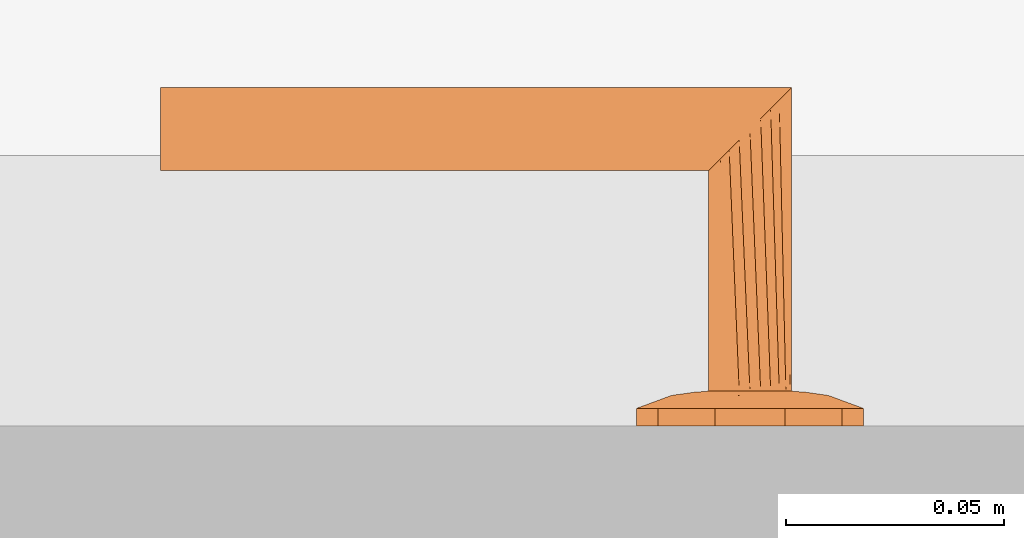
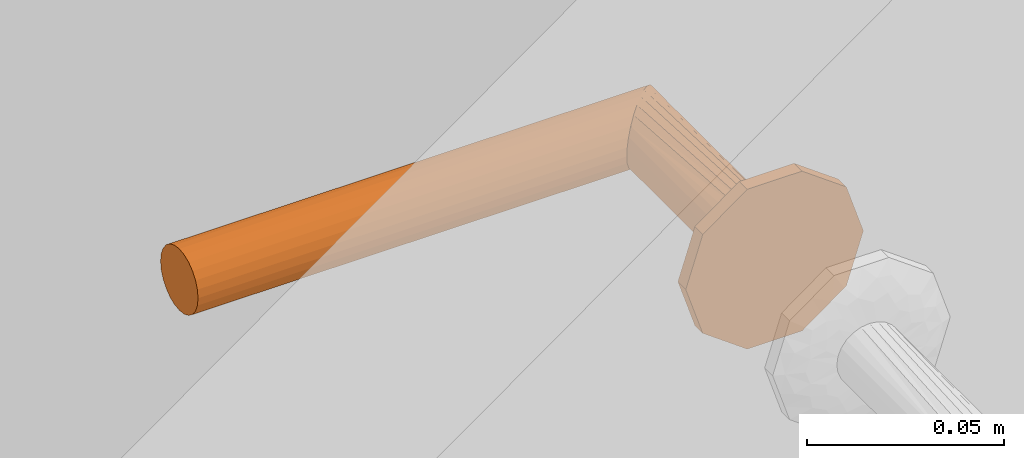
# One storey, part 121 of 125: 1 proxy.
"""IFC2X3 building model written with IfcOpenShell, lengths in millimetres."""

from ifc_helpers import new_model, entity, si_unit, converted_unit, direction, frame, origin, place, context, subcontext, project, spatial, faceted_brep, source, transform, mapped, material, type_object, type_shapes, element, save


model = new_model("IFC2X3")

# Units and contexts
model_context = context("Model", 3, precision=0.01, world=origin(), true_north=direction((6.123233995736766e-17, 1.0)))
plan_context = context("Plan", 3, precision=0.01, world=origin(), true_north=direction((6.123233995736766e-17, 1.0)))
body_context = subcontext(model_context, "Body", "Model", "MODEL_VIEW")
ifc_project = project(units=[si_unit("LENGTHUNIT", "METRE", prefix="MILLI"), converted_unit("PLANEANGLEUNIT", "DEGREE", entity("IfcPlaneAngleMeasure", 0.017453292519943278), si_unit("PLANEANGLEUNIT", "RADIAN"), dimensions=[0, 0, 0, 0, 0, 0, 0]), si_unit("AREAUNIT", "SQUARE_METRE")], contexts=[model_context, plan_context])

# Site, building, storey
site_placement = place(None, origin())
site = spatial("IfcSite", under=ifc_project, at=site_placement, Name="Default", CompositionType="ELEMENT")
building_placement = place(site_placement, origin())
building = spatial("IfcBuilding", under=site, at=building_placement, CompositionType="ELEMENT")
storey_placement = place(building_placement, frame((0.0, 0.0, 3125.0)))
storey = spatial("IfcBuildingStorey", under=building, at=storey_placement, Name="2K", CompositionType="ELEMENT", Elevation=3125.0)

# Proxy
ifc_material = material(Name="<Unnamed>")
building_element_proxy_type = type_object("IfcBuildingElementProxyType", Name="Door-handle_Lever_ABLOY_INOXI_3-19ss-002_RT:Default", PredefinedType="NOTDEFINED", material=ifc_material)
shared_shape = source(origin(), body_context, "Body", "Brep", [
    faceted_brep([(0.0, 0.0, 0.0), (8.034441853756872, 24.72746942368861, 0.0), (14.534441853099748, 20.00494299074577, 0.0), (21.034441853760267, 15.282416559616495, 0.0), (23.51722092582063, 7.641208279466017, 0.0), (26.0, 0.0, 0.0), (23.517220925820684, -7.641208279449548, 0.0), (0.0, 24.72746942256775, 0.0), (-8.034441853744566, 24.727469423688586, 0.0), (-14.534441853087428, 20.00494299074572, 0.0), (-21.03444185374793, 15.282416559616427, 0.0), (-23.517220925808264, 7.641208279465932, 0.0), (-26.0, 0.0, 0.0), (21.034441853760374, -15.282416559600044, 0.0), (14.534441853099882, -20.004942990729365, 0.0), (8.034441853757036, -24.72746942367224, 0.0), (0.0, -24.72746942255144, 0.0), (-23.517220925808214, -7.641208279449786, 0.0), (-21.034441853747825, -15.282416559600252, 0.0), (-14.53444185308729, -20.004942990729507, 0.0), (-8.0344418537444, -24.72746942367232, 0.0), (0.0, 0.0, 8.0), (9.500000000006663, 0.0, 8.0), (8.312500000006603, 2.056810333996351, 8.0), (7.125000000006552, 4.113620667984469, 8.0), (5.937500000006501, 6.170431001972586, 8.0), (4.7500000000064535, 8.227241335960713, 8.0), (2.375000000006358, 8.2272413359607, 8.0), (0.0, 8.227241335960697, 8.0), (-2.3749999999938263, 8.227241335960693, 8.0), (-4.749999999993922, 8.227241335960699, 8.0), (-5.937499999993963, 6.1704310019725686, 8.0), (-7.124999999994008, 4.1136206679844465, 8.0), (-8.312499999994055, 2.0568103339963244, 8.0), (-9.499999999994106, 0.0, 8.0), (-8.31249999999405, -2.0568103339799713, 8.0), (8.312500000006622, -2.0568103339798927, 8.0), (7.125000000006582, -4.113620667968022, 8.0), (5.937500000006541, -6.170431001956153, 8.0), (4.750000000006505, -8.227241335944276, 8.0), (-7.124999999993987, -4.113620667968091, 8.0), (-5.9374999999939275, -6.17043100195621, 8.0), (-4.74999999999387, -8.227241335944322, 8.0), (-2.374999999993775, -8.227241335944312, 8.0), (0.0, -8.227241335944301, 8.0), (2.3750000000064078, -8.227241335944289, 8.0), (-20.6430713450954, 6.292822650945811, 5.929480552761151), (-16.663919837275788, 7.932665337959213, 6.877259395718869), (-22.48876527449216, 10.806469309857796, 4.030771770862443), (-16.764060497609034, 3.8202578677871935, 7.1747985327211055), (-12.504579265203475, 5.179566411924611, 7.774932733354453), (-11.979136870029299, 13.678312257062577, 6.945778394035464), (-11.963426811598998, 8.62529041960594, 7.618343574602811), (-9.07172672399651, 10.31160661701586, 7.7520782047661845), (8.03444185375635, 24.727469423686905, 4.030771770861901), (0.0, 24.72746942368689, 4.030771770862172), (5.758554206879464, 20.96753300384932, 5.871476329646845), (20.643071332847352, 6.292822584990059, 5.929480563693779), (22.488765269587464, 10.806469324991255, 4.03077177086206), (16.66391982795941, 7.9326653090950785, 6.877259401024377), (9.49943163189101, 18.6436835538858, 6.154325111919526), (14.534441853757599, 20.004942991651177, 4.030771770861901), (-14.534441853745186, 20.00494299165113, 4.030771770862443), (-21.034441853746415, 15.282416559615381, 4.030771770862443), (-15.783149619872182, 11.991003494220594, 6.50080018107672), (-23.943088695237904, 6.330522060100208, 4.030771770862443), (-23.012042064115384, 0.0, 5.135401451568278), (12.50457924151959, 5.179566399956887, 7.774932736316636), (11.963426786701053, 8.625290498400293, 7.618343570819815), (16.76406041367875, 3.820257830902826, 7.17479855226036), (15.783149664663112, 11.991003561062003, 6.50080015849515), (23.01204200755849, 0.0, 5.135401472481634), (17.9853516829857, 0.0, 6.993737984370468), (8.661516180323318, 10.478936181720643, 7.768126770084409), (-3.3573143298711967, 21.197247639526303, 5.971427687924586), (-8.03444185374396, 24.727469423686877, 4.030771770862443), (-7.711266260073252, 12.76034452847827, 7.594456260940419), (-5.97325794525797, 16.43013906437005, 7.110979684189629), (-9.94191586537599, 17.061976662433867, 6.522757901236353), (11.979136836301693, 13.678312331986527, 6.945778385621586), (5.953298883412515, 16.50608604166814, 7.096344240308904), (7.511307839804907, 13.358932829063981, 7.529187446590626), (-1.5654593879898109, 15.307443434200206, 7.519134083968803), (-7.784980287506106, 20.476295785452, 5.812837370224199), (2.8135289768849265, 17.763922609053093, 6.993737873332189), (-17.985351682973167, 0.0, 6.993737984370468), (-26.0, 0.0, 4.030771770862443), (-23.51722092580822, 7.641208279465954, 4.030771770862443), (26.0, 0.0, 4.030771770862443), (24.308823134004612, 5.204907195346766, 4.030771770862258), (23.943088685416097, 6.330522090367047, 4.030771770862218), (21.03444185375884, 15.282416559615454, 4.030771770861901), (22.617646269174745, 10.40981439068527, 4.030771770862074), (20.6430713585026, -6.292822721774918, 5.929480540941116), (16.663919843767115, -7.932665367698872, 6.877259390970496), (22.48876527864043, -10.8064692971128, 4.030771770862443), (16.764060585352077, -3.8202579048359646, 7.174798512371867), (12.504579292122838, -5.17956641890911, 7.774932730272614), (11.979136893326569, -13.678312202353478, 6.9457784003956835), (11.963426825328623, -8.62529034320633, 7.618343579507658), (9.071726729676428, -10.311606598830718, 7.752078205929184), (-8.03444185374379, -24.727469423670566, 4.030771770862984), (0.0, -24.727469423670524, 4.030771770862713), (-5.758554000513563, -20.96753314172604, 5.8714763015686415), (-20.643071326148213, -6.292822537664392, 5.929480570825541), (-22.488765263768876, -10.80646934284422, 4.030771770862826), (-16.66391981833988, -7.932665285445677, 6.877259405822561), (-9.499431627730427, -18.643683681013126, 6.154325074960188), (-14.534441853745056, -20.004942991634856, 4.030771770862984), (14.53444185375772, -20.00494299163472, 4.030771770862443), (21.034441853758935, -15.282416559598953, 4.030771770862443), (15.783149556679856, -11.991003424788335, 6.5008002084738), (23.943088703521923, -6.330522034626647, 4.030771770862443), (-12.504579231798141, -5.17956638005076, 7.77493273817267), (-11.963426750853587, -8.625290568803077, 7.618343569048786), (-16.764060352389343, -3.8202577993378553, 7.174798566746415), (-15.783149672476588, -11.991003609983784, 6.500800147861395), (-8.661516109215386, -10.478936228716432, 7.768126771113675), (3.3573144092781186, -21.197247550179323, 5.971427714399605), (8.034441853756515, -24.727469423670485, 4.030771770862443), (7.711266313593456, -12.760344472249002, 7.5944562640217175), (5.9732581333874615, -16.430139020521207, 7.110979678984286), (9.941915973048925, -17.06197655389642, 6.522757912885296), (-11.979136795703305, -13.678312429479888, 6.945778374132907), (-5.953298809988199, -16.506086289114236, 7.096344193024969), (-7.511307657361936, -13.358932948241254, 7.5291874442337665), (1.5654596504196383, -15.3074431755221, 7.519134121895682), (7.784980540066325, -20.476295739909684, 5.812837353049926), (-2.81352881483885, -17.76392263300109, 6.993737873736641), (23.517220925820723, -7.64120827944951, 4.030771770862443), (-24.308823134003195, -5.20490719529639, 4.030771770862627), (-23.943088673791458, -6.330522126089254, 4.030771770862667), (-21.034441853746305, -15.282416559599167, 4.030771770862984), (-22.617646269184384, -10.409814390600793, 4.0307717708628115)], [[[0, 1, 2]], [[0, 2, 3]], [[0, 3, 4]], [[0, 4, 5]], [[0, 5, 6]], [[0, 7, 1]], [[0, 8, 7]], [[0, 9, 8]], [[0, 10, 9]], [[0, 11, 10]], [[0, 12, 11]], [[0, 6, 13]], [[0, 13, 14]], [[0, 14, 15]], [[0, 15, 16]], [[0, 17, 12]], [[0, 18, 17]], [[0, 19, 18]], [[0, 20, 19]], [[0, 16, 20]], [[21, 22, 23]], [[21, 23, 24]], [[21, 24, 25]], [[21, 25, 26]], [[21, 26, 27]], [[21, 27, 28]], [[21, 28, 29]], [[21, 29, 30]], [[21, 30, 31]], [[21, 31, 32]], [[21, 32, 33]], [[21, 33, 34]], [[21, 34, 35]], [[21, 36, 22]], [[21, 37, 36]], [[21, 38, 37]], [[21, 39, 38]], [[21, 35, 40]], [[21, 40, 41]], [[21, 41, 42]], [[21, 42, 43]], [[21, 43, 44]], [[21, 44, 45]], [[21, 45, 39]], [[46, 47, 48]], [[49, 50, 47]], [[33, 32, 50]], [[51, 52, 53]], [[32, 52, 50]], [[49, 47, 46]], [[54, 55, 56]], [[57, 58, 59]], [[60, 61, 54]], [[62, 63, 64]], [[46, 65, 66]], [[67, 59, 68]], [[23, 69, 67]], [[70, 68, 59]], [[23, 22, 69]], [[52, 51, 64]], [[71, 69, 72]], [[73, 25, 68]], [[74, 55, 75]], [[76, 77, 78]], [[70, 61, 79]], [[71, 57, 69]], [[60, 80, 81]], [[51, 76, 78]], [[77, 29, 82]], [[26, 81, 27]], [[74, 83, 77]], [[77, 82, 74]], [[74, 84, 55]], [[34, 49, 85]], [[23, 67, 24]], [[28, 84, 82]], [[74, 82, 84]], [[29, 76, 30]], [[29, 28, 82]], [[49, 34, 33]], [[47, 50, 52]], [[47, 52, 64]], [[50, 49, 33]], [[53, 76, 51]], [[52, 32, 31]], [[49, 66, 85]], [[86, 66, 65]], [[24, 67, 68]], [[83, 78, 77]], [[49, 46, 66]], [[48, 64, 63]], [[46, 48, 87, 65]], [[48, 47, 64]], [[59, 67, 69]], [[26, 73, 81]], [[79, 68, 70]], [[25, 24, 68]], [[71, 88, 89, 90]], [[22, 72, 69]], [[59, 69, 57]], [[79, 61, 60]], [[51, 62, 64]], [[70, 58, 91]], [[90, 57, 71]], [[58, 70, 59]], [[57, 90, 92]], [[79, 60, 81]], [[61, 70, 91]], [[56, 80, 60]], [[79, 81, 73]], [[80, 84, 27]], [[79, 73, 68]], [[27, 84, 28]], [[25, 73, 26]], [[77, 76, 29]], [[31, 30, 53]], [[78, 62, 51]], [[75, 62, 83]], [[78, 83, 62]], [[75, 83, 74]], [[76, 53, 30]], [[31, 53, 52]], [[81, 80, 27]], [[84, 80, 56]], [[84, 56, 55]], [[54, 56, 60]], [[93, 94, 95]], [[96, 97, 94]], [[36, 37, 97]], [[98, 99, 100]], [[37, 99, 97]], [[96, 94, 93]], [[101, 102, 103]], [[104, 105, 106]], [[107, 108, 101]], [[109, 110, 111]], [[93, 112, 71]], [[113, 106, 114]], [[35, 115, 113]], [[116, 114, 106]], [[35, 34, 115]], [[99, 98, 111]], [[66, 115, 85]], [[117, 41, 114]], [[118, 102, 119]], [[120, 121, 122]], [[116, 108, 123]], [[66, 104, 115]], [[107, 124, 125]], [[120, 45, 121]], [[121, 45, 126]], [[42, 125, 43]], [[118, 127, 121]], [[121, 126, 118]], [[118, 128, 102]], [[22, 96, 72]], [[35, 113, 40]], [[44, 128, 126]], [[118, 126, 128]], [[45, 120, 39]], [[45, 44, 126]], [[96, 22, 36]], [[94, 97, 99]], [[94, 99, 111]], [[97, 96, 36]], [[100, 120, 98]], [[99, 37, 38]], [[96, 71, 72]], [[88, 71, 112]], [[40, 113, 114]], [[127, 122, 121]], [[96, 93, 71]], [[95, 111, 110]], [[93, 95, 129, 112]], [[95, 94, 111]], [[106, 113, 115]], [[42, 117, 125]], [[123, 114, 116]], [[41, 40, 114]], [[66, 86, 130, 131]], [[34, 85, 115]], [[106, 115, 104]], [[123, 108, 107]], [[98, 109, 111]], [[116, 105, 132]], [[131, 104, 66]], [[105, 116, 106]], [[104, 131, 133]], [[123, 107, 125]], [[108, 116, 132]], [[103, 124, 107]], [[123, 125, 117]], [[124, 128, 43]], [[123, 117, 114]], [[43, 128, 44]], [[41, 117, 42]], [[38, 39, 100]], [[98, 120, 122]], [[122, 109, 98]], [[119, 109, 127]], [[122, 127, 109]], [[119, 127, 118]], [[120, 100, 39]], [[38, 100, 99]], [[125, 124, 43]], [[128, 124, 103]], [[128, 103, 102]], [[101, 103, 107]], [[9, 10, 63, 62, 75, 8]], [[11, 12, 86, 65, 87, 48, 63, 10]], [[4, 3, 92, 90, 89, 88, 5]], [[3, 91, 58]], [[55, 54, 1, 7, 8, 75]], [[3, 2, 1, 54, 61, 91]], [[13, 6, 5, 88, 112, 129, 95, 110]], [[119, 15, 14, 13, 110, 109]], [[17, 18, 133, 131, 130, 86, 12]], [[18, 132, 105]], [[102, 101, 20, 16, 15, 119]], [[18, 19, 20, 101, 108, 132]], [[57, 92, 58]], [[104, 133, 105]], [[3, 58, 92]], [[18, 105, 133]]]),
    faceted_brep([(0.0, 9.499999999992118, 8.0), (2.4587809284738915, 9.176295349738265, 8.0), (4.7499999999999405, 8.22724133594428, 8.0), (6.717514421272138, 6.7175144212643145, 8.0), (8.227241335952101, 4.749999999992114, 8.0), (9.17629534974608, 2.458780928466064, 8.0), (9.499999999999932, 0.0, 8.0), (9.17629534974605, -2.458780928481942, 8.0), (8.22724133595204, -4.75000000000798, 8.0), (6.717514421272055, -6.717514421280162, 8.0), (4.7499999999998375, -8.227241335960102, 8.0), (2.4587809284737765, -9.176295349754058, 8.0), (0.0, -9.500000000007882, 8.0), (-2.4587809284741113, -9.176295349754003, 8.0), (-4.750000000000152, -8.227241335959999, 8.0), (-6.717514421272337, -6.717514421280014, 8.0), (-8.227241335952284, -4.750000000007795, 8.0), (-9.176295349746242, -2.458780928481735, 8.0), (-9.500000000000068, 0.0, 8.0), (-9.176295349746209, 2.4587809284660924, 8.0), (-8.227241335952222, 4.74999999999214, 8.0), (-6.717514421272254, 6.717514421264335, 8.0), (-4.7500000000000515, 8.227241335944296, 8.0), (-2.4587809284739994, 9.176295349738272, 8.0), (-6.717514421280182, -6.7175144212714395, 61.282485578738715), (-8.227241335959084, -4.7499999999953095, 59.772758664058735), (-9.176295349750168, -2.458780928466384, 58.82370465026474), (-2.4587809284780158, -9.176295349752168, 65.54121907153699), (-4.750000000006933, -8.227241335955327, 63.25000000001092), (-9.500000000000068, 0.0, 58.50000000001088), (0.0, -9.50000000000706, 68.0), (2.4587809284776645, -9.17629534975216, 70.45878092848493), (4.750000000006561, -8.227241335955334, 72.75000000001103), (6.717514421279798, -6.7175144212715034, 74.71751442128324), (9.17629534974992, -2.458780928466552, 77.17629534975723), (8.22724133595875, -4.749999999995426, 76.22724133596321), (9.499999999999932, 0.0, 77.50000000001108), (9.176295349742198, 2.4587809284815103, 77.1762953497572), (8.227241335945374, 4.750000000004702, 76.22724133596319), (4.749999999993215, 8.227241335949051, 72.75000000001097), (6.7175144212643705, 6.717514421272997, 74.7175144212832), (2.4587809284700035, 9.17629534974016, 70.45878092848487), (-2.4587809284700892, 9.176295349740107, 65.54121907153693), (0.0, 9.49999999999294, 68.0), (-6.717514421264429, 6.717514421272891, 61.282485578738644), (-4.749999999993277, 8.227241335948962, 63.250000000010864), (-9.176295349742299, 2.458780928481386, 58.8237046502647), (-8.227241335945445, 4.750000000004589, 59.77275866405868), (-135.0, 9.500000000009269, 68.0), (-135.0, 9.176295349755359, 65.54121907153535), (-135.0, 8.227241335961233, 63.25000000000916), (-135.0, 6.7175144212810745, 61.28248557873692), (-135.0, 4.750000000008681, 59.772758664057), (-135.0, 2.458780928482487, 58.82370465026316), (-135.0, 0.0, 58.50000000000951), (-135.0, -2.458780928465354, 58.823704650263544), (-135.0, -4.749999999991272, 59.772758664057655), (-135.0, -6.717514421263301, 61.28248557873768), (-135.0, -8.227241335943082, 63.250000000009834), (-135.0, -9.17629534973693, 65.54121907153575), (-135.0, -9.499999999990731, 68.0), (-135.0, -9.17629534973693, 70.45878092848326), (-135.0, -8.227241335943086, 72.75000000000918), (-135.0, -6.717514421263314, 74.71751442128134), (-135.0, -4.749999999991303, 76.22724133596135), (-135.0, -2.4587809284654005, 77.17629534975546), (-135.0, 0.0, 77.5000000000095), (-135.0, 2.4587809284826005, 77.17629534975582), (-135.0, 4.750000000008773, 76.22724133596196), (-135.0, 6.717514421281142, 74.71751442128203), (-135.0, 8.227241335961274, 72.75000000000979), (-135.0, 9.176295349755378, 70.4587809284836)], [[[0, 1, 2, 3, 4, 5, 6, 7, 8, 9, 10, 11, 12, 13, 14, 15, 16, 17, 18, 19, 20, 21, 22, 23]], [[15, 24, 25, 16]], [[16, 25, 26, 17]], [[27, 28, 12]], [[12, 28, 13]], [[13, 28, 24]], [[18, 17, 26, 29]], [[24, 15, 14]], [[14, 13, 24]], [[11, 30, 27]], [[31, 9, 32]], [[32, 8, 33]], [[34, 35, 7]], [[7, 35, 33]], [[36, 34, 7, 6]], [[30, 11, 10]], [[11, 27, 12]], [[33, 8, 7]], [[8, 32, 9]], [[31, 10, 9]], [[10, 31, 30]], [[37, 36, 6, 5]], [[37, 5, 38]], [[39, 40, 4]], [[5, 40, 38]], [[41, 39, 3]], [[5, 4, 40]], [[42, 43, 1]], [[2, 1, 43]], [[2, 41, 3]], [[39, 4, 3]], [[2, 43, 41]], [[23, 44, 45]], [[0, 45, 42]], [[19, 18, 29, 46]], [[20, 19, 46, 47]], [[21, 20, 47, 44]], [[23, 22, 44]], [[45, 0, 23]], [[44, 22, 21]], [[1, 0, 42]], [[48, 49, 50, 51, 52, 53, 54, 55, 56, 57, 58, 59, 60, 61, 62, 63, 64, 65, 66, 67, 68, 69, 70, 71]], [[26, 25, 56, 55]], [[29, 26, 55, 54]], [[28, 27, 59, 58]], [[24, 28, 58, 57]], [[25, 24, 57, 56]], [[27, 30, 60, 59]], [[32, 33, 63, 62]], [[31, 32, 62, 61]], [[34, 36, 66, 65]], [[35, 34, 65, 64]], [[33, 35, 64, 63]], [[61, 60, 30, 31]], [[38, 68, 67, 37]], [[37, 67, 66, 36]], [[41, 71, 70, 39]], [[39, 70, 69, 40]], [[40, 69, 68, 38]], [[48, 71, 41, 43]], [[44, 51, 50, 45]], [[45, 50, 49, 42]], [[29, 54, 53, 46]], [[46, 53, 52, 47]], [[47, 52, 51, 44]], [[42, 49, 48, 43]]]),
])
type_shapes(building_element_proxy_type, [shared_shape])
proxy_placement = place(storey_placement, frame((13098.996767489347, 5257.99995949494, 1000.0), z_axis=(0.0, 1.0, 0.0), x_axis=(1.0, 0.0, 0.0)))
element("IfcBuildingElementProxy", 1, at=proxy_placement, inside=storey, type_object=building_element_proxy_type, material=ifc_material, Name="Door-handle_Lever_ABLOY_INOXI_3-19ss-002_RT:Default", ObjectType="Door-handle_Lever_ABLOY_INOXI_3-19ss-002_RT:Default", context=body_context, shape_type="MappedRepresentation", body=[
    mapped(shared_shape, transform((0.0, 0.0, 0.0), scale=1.0)),
])

save(model, "model.ifc")
